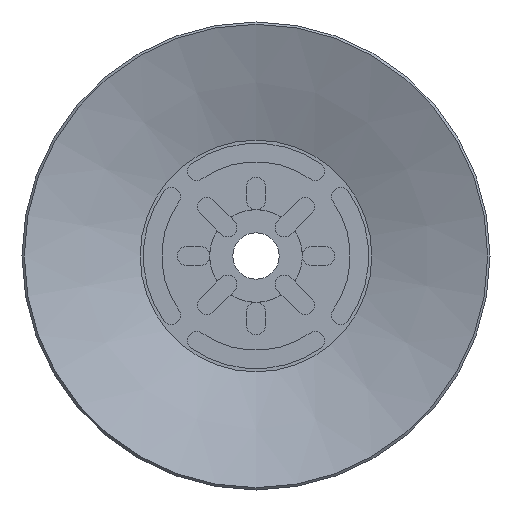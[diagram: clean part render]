
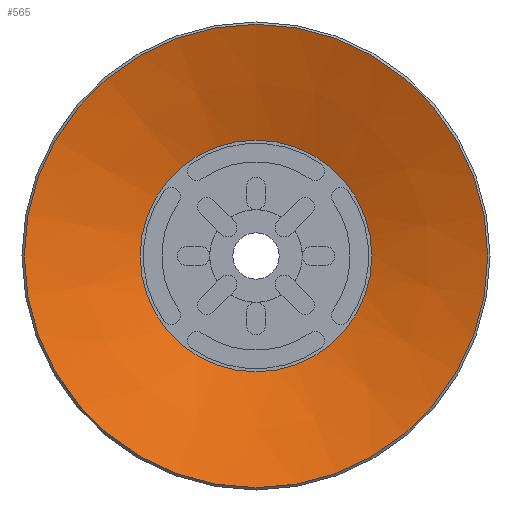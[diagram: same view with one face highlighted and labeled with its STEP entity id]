
A CAD part, front view. The second image highlights one B-rep face of the part: STEP entity #565.
In plain terms, the highlighted conical face has half-angle 70.201 degrees and reference radius 7.5 mm.
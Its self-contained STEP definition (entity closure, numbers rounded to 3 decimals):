
#565=ADVANCED_FACE('',(#948,#949),#950,.F.);
#948=FACE_BOUND('',#1332,.T.);
#949=FACE_OUTER_BOUND('',#1333,.T.);
#950=CONICAL_SURFACE('',#1334,7.5,1.225);
#1332=EDGE_LOOP('',(#2595));
#1333=EDGE_LOOP('',(#2596));
#1334=AXIS2_PLACEMENT_3D('',#2597,#2598,#2599);
#2595=ORIENTED_EDGE('',*,*,#2860,.F.);
#2596=ORIENTED_EDGE('',*,*,#2922,.T.);
#2597=CARTESIAN_POINT('',(0.0,0.0,2.7));
#2598=DIRECTION('',(0.0,0.,-1.0));
#2599=DIRECTION('',(0.0,1.0,0.));
#2860=EDGE_CURVE('',#3427,#3427,#3428,.T.);
#2922=EDGE_CURVE('',#3533,#3533,#3534,.T.);
#3427=VERTEX_POINT('',#4504);
#3428=CIRCLE('',#4505,7.5);
#3533=VERTEX_POINT('',#4648);
#3534=CIRCLE('',#4649,15.0);
#4504=CARTESIAN_POINT('',(0.0,7.5,2.7));
#4505=AXIS2_PLACEMENT_3D('',#5182,#5183,#5184);
#4648=CARTESIAN_POINT('',(0.0,15.0,0.));
#4649=AXIS2_PLACEMENT_3D('',#5292,#5293,#5294);
#5182=CARTESIAN_POINT('',(0.0,0.0,2.7));
#5183=DIRECTION('',(0.0,0.,-1.0));
#5184=DIRECTION('',(0.0,1.0,0.));
#5292=CARTESIAN_POINT('',(0.0,0.0,0.0));
#5293=DIRECTION('',(0.0,0.,-1.0));
#5294=DIRECTION('',(0.0,1.0,0.));
